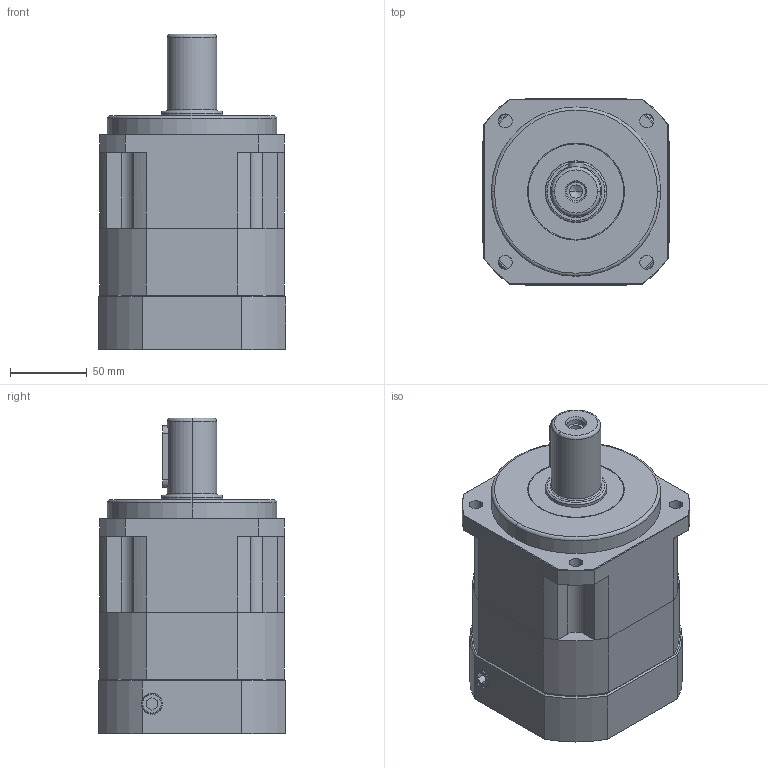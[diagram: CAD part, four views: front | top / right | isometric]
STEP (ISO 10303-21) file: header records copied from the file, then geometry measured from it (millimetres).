
FILE_DESCRIPTION (( 'STEP AP203' ), '1' );
FILE_NAME ('SB120-1-95M8.STEP', '2011-07-11T08:46:11', ( '1' ), ( '' ), 'SwSTEP 2.0', 'SolidWorks 2011', '' );
FILE_SCHEMA (( 'CONFIG_CONTROL_DESIGN' ));
Length unit declared in the file: millimetre
Products named in the file (1): SB120-1-95M8
Bounding box: 122 x 122 x 205 mm (x, y, z)
Volume: 1536195.4 mm3; surface area: 227535.1 mm2
Topology: 16 solids, 16 shells, 574 faces, 1362 edges, 844 vertices
Faces by surface type: plane 252, cylinder 185, cone 104, torus 24, bspline 9
Entity records: 17494 total; most frequent: CARTESIAN_POINT 4007, DIRECTION 2909, ORIENTED_EDGE 2672, EDGE_CURVE 1336, AXIS2_PLACEMENT_3D 1098, VERTEX_POINT 844, LINE 713, VECTOR 713
